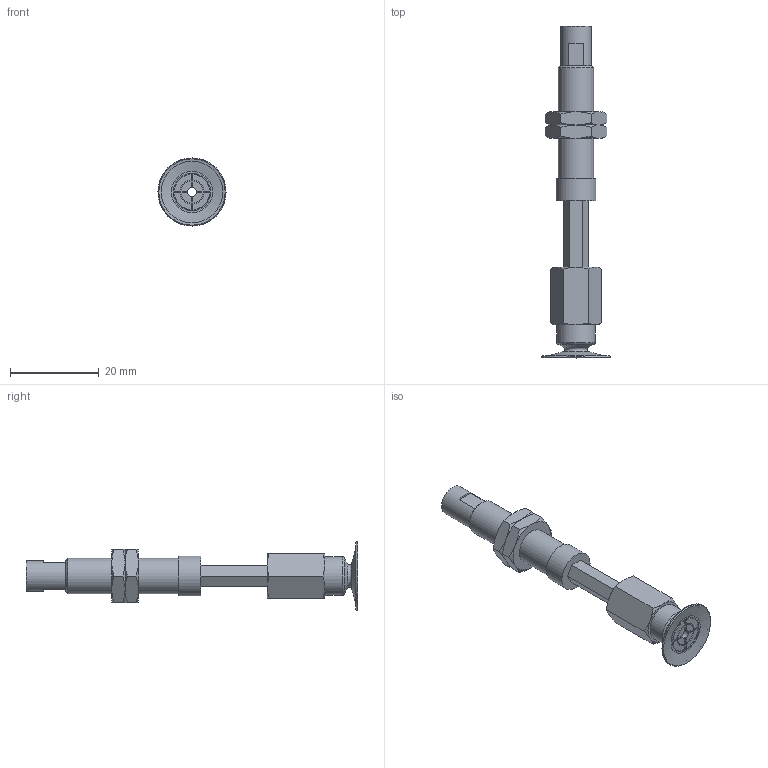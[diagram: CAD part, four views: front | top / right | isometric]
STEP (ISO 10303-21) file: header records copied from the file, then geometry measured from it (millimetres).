
FILE_DESCRIPTION(('STEP AP203'),'1');
FILE_NAME('.stp','2025-08-21T08:04:33',(' '),(' '),'Spatial InterOp 3D',' ',' ');
FILE_SCHEMA(('CONFIG_CONTROL_DESIGN'));
Length unit declared in the file: millimetre
Products named in the file (6): BNABPATH-15B-15-※; ADAPTER; NAPATH-10A-15--M; NAPATH-10A-15--F; Nut-10A-S; BPAG-15B-※
Assembly tree (6 placements, depth 2):
  BNABPATH-15B-15-※
    ADAPTER
    NAPATH-10A-15--M
    NAPATH-10A-15--F
    Nut-10A-S  x2
    BPAG-15B-※
Bounding box: 15.4 x 75 x 15.4 mm (x, y, z)
Volume: 3956.5 mm3; surface area: 4950.1 mm2
Topology: 6 solids, 6 shells, 165 faces, 375 edges, 229 vertices
Faces by surface type: plane 73, cone 55, cylinder 27, torus 10
Full cylindrical faces by diameter (mm): 2 x3, 4 x2, 4.134 x1, 6 x2, 7 x1, 7.188 x2, 8 x1, 8.5 x1, 8.7 x1, 9 x1
Entity records: 4264 total; most frequent: CARTESIAN_POINT 988, DIRECTION 618, ORIENTED_EDGE 564, EDGE_CURVE 282, AXIS2_PLACEMENT_3D 250, EDGE_LOOP 192, VERTEX_POINT 190, FACE_OUTER_BOUND 166
